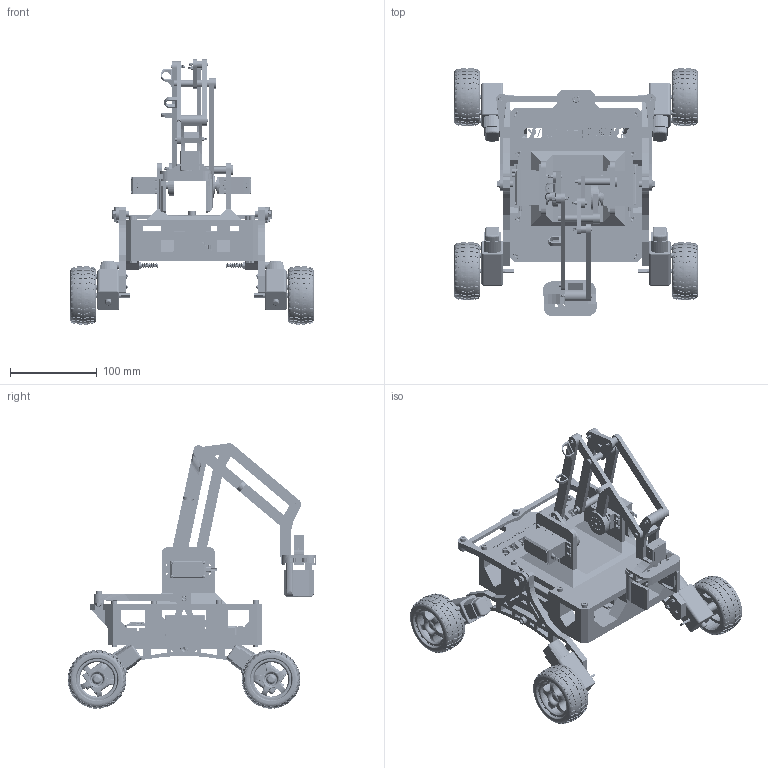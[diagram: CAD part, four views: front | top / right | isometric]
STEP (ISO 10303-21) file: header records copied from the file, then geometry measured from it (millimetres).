
FILE_DESCRIPTION(/* description */ (''),/* implementation_level */ '2;1');
FILE_NAME(/* name */ 'a539b56d-7fe6-4df0-8be5-a4fd708adc04.stp',/* time_stamp */ '2026-11-26T23:09:43Z',/* author */ (''),/* organization */ (''),/* preprocessor_version */ 'ST-DEVELOPER v20.2',/* originating_system */ 'Autodesk Translation Framework v15.17.0.0',/* authorisation */ '');
FILE_SCHEMA (('AUTOMOTIVE_DESIGN { 1 0 10303 214 3 1 1 }'));
Products named in the file (78): 2026-10-25-22-12-47-917; 2026-10-25-23-02-58-721; 2026-10-25-23-02-58-722; 2026-10-25-23-02-58-721_1; 2026-10-25-23-02-58-722_1; 2026-10-25-23-03-05-680; L298N; Pcb; Pengunci 2; Pengunci; 2026-10-25-23-17-18-406; 2026-10-25-23-18-23-811; 2026-10-26-00-05-07-291; 2026-10-26-00-31-34-393; 2026-10-26-01-06-22-071; 2026-10-26-01-23-51-182; 2026-10-26-01-15-40-012; 2026-10-26-00-31-34-393_1; 2026-10-26-01-24-01-340; 2026-10-26-01-06-22-071_1; 2026-10-26-01-15-40-012_1; 2026-10-26-01-31-16-760; 2026-10-26-01-31-16-764; 2026-10-26-01-31-16-784; 2026-10-26-01-31-16-787; 2026-10-26-01-31-16-790; 2026-10-26-01-31-16-793; 2026-10-26-01-31-16-795; 2026-10-26-01-31-16-798; 2026-10-26-01-31-16-800; 2026-10-26-01-31-16-801; 2026-10-26-01-31-16-818; 2026-10-26-01-31-16-840; 2026-10-26-01-31-16-842; 2026-10-26-01-31-16-818_1; 2026-10-26-01-31-16-837; 2026-10-26-01-31-16-838; 2026-10-26-01-31-16-834; 2026-10-26-01-31-16-876; 2026-10-26-01-31-16-876_1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
Assembly tree (115 placements, depth 5):
  2026-10-25-22-12-47-917
    2026-10-25-23-02-58-721
      2026-10-25-23-02-58-722
      2026-10-25-23-02-58-721_1
      2026-10-25-23-02-58-722_1
    2026-10-25-23-03-05-680
    L298N
      Pcb
      Pengunci  x2
      Pengunci 2
    2026-10-25-23-17-18-406
    2026-10-25-23-18-23-811
    2026-10-26-00-05-07-291
    2026-10-26-00-31-34-393
      2026-10-26-01-06-22-071
      2026-10-26-01-23-51-182
    2026-10-26-01-15-40-012
    2026-10-26-00-31-34-393_1
      2026-10-26-01-24-01-340
      2026-10-26-01-06-22-071_1
    2026-10-26-01-15-40-012_1
    2026-10-26-01-31-16-760
      2026-10-26-01-31-16-764
      2026-10-26-01-31-16-784
      2026-10-26-01-31-16-787
      2026-10-26-01-31-16-790
      2026-10-26-01-31-16-793
      2026-10-26-01-31-16-795
      2026-10-26-01-31-16-798
      2026-10-26-01-31-16-800
      2026-10-26-01-31-16-801
      2026-10-26-01-31-16-818
        2026-10-26-01-31-16-840
        2026-10-26-01-31-16-842
          2026-10-26-01-31-16-818_1
          2026-10-26-01-31-16-837
        2026-10-26-01-31-16-838
        2026-10-26-01-31-16-834  x2
      2026-10-26-01-31-16-876
      2026-10-26-01-31-16-876_1
      2026-10-26-01-31-16-884
      2026-10-26-01-31-16-884_1
      2026-10-26-01-31-16-889
      2026-10-26-01-31-16-891_1  x4
      2026-10-26-01-31-16-891
      2026-10-26-01-31-16-884_2
      2026-10-26-01-31-16-889_1
      2026-10-26-01-31-17-965
      2026-10-26-01-31-18-060
      2026-10-26-01-31-16-926
      2026-10-26-01-31-16-957
      2026-10-26-01-31-17-002  x2
      2026-10-26-01-31-17-004
    91292A033_18-8 Stainless Steel Socket Head Screw
    91292A140_18-8 Stainless Steel Socket Head Screw  x8
    91292A354_18-8 Stainless Steel Socket Head Screw  x4
    91292A127_18-8 Stainless Steel Socket Head Screw
    90591A255_Zinc-Plated Steel Hex Nut  x4
    90695A037_Medium-Strength Steel Thin-Profile Hex Nut  x3
    90591A113_Zinc-Plated Steel Hex Nut  x10
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Bounding box: 280.4 x 285.86 x 305.22 mm (x, y, z)
Volume: 1492500.4 mm3; surface area: 499914.7 mm2
Topology: 142 solids, 142 shells, 20791 faces, 54599 edges, 35621 vertices
Faces by surface type: plane 12509, cylinder 3988, bspline 3261, torus 532, cone 470, sphere 31
Full cylindrical faces by diameter (mm): 0.2 x1, 0.5 x1, 1 x13, 1.4 x6, 1.5 x48, 1.502 x7, 1.6 x18, 1.8 x5, 1.802 x6, 1.915 x32, 1.992 x2, 2 x22, 2.2 x2, 2.35 x272, 2.356 x107, 2.5 x64, 2.52 x30, 2.529 x5, 2.927 x186, 3 x299, 3.091 x300, 3.1 x1, 3.2 x8, 3.3 x19, 3.5 x4, 3.6 x7, 3.961 x75, 4 x331, 4.1 x18, 4.2 x2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
Entity records: 757355 total; most frequent: CARTESIAN_POINT 340281, ORIENTED_EDGE 91952, DIRECTION 70675, EDGE_CURVE 45976, LINE 30401, VECTOR 30401, VERTEX_POINT 30037, AXIS2_PLACEMENT_3D 20137
